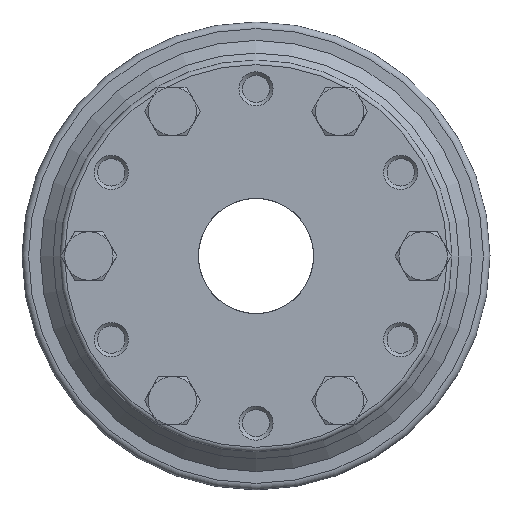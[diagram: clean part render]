
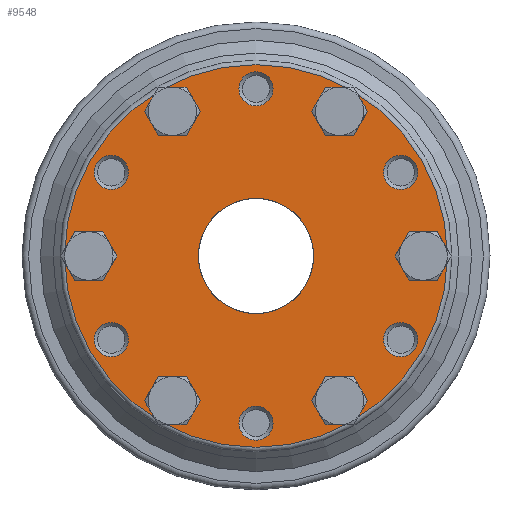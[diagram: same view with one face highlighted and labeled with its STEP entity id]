
A CAD part, left-side view. The second image highlights one B-rep face of the part: STEP entity #9548.
In plain terms, the highlighted planar face has unit normal (-1, 0, 0).
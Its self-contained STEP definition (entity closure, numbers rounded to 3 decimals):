
#951=PLANE('',#10202);
#1678=ORIENTED_EDGE('',*,*,#2991,.T.);
#1679=ORIENTED_EDGE('',*,*,#2990,.T.);
#1680=ORIENTED_EDGE('',*,*,#2989,.T.);
#1681=ORIENTED_EDGE('',*,*,#3005,.F.);
#1682=ORIENTED_EDGE('',*,*,#2988,.T.);
#1683=ORIENTED_EDGE('',*,*,#2987,.F.);
#1684=ORIENTED_EDGE('',*,*,#2985,.F.);
#1685=ORIENTED_EDGE('',*,*,#2983,.F.);
#1686=ORIENTED_EDGE('',*,*,#2981,.F.);
#1687=ORIENTED_EDGE('',*,*,#2979,.F.);
#1688=ORIENTED_EDGE('',*,*,#2977,.F.);
#1689=ORIENTED_EDGE('',*,*,#2975,.T.);
#1690=ORIENTED_EDGE('',*,*,#2974,.T.);
#1691=ORIENTED_EDGE('',*,*,#2973,.T.);
#2973=EDGE_CURVE('',#3701,#3701,#4233,.T.);
#2974=EDGE_CURVE('',#3702,#3702,#4234,.T.);
#2975=EDGE_CURVE('',#3703,#3703,#4235,.T.);
#2977=EDGE_CURVE('',#3705,#3705,#4237,.T.);
#2979=EDGE_CURVE('',#3707,#3707,#4239,.T.);
#2981=EDGE_CURVE('',#3709,#3709,#4241,.T.);
#2983=EDGE_CURVE('',#3711,#3711,#4243,.T.);
#2985=EDGE_CURVE('',#3713,#3713,#4245,.T.);
#2987=EDGE_CURVE('',#3715,#3715,#4247,.T.);
#2988=EDGE_CURVE('',#3716,#3716,#4248,.T.);
#2989=EDGE_CURVE('',#3717,#3717,#4249,.T.);
#2990=EDGE_CURVE('',#3718,#3718,#4250,.T.);
#2991=EDGE_CURVE('',#3719,#3719,#4251,.T.);
#3005=EDGE_CURVE('',#3733,#3733,#4265,.T.);
#3701=VERTEX_POINT('',#13677);
#3702=VERTEX_POINT('',#13680);
#3703=VERTEX_POINT('',#13683);
#3705=VERTEX_POINT('',#13688);
#3707=VERTEX_POINT('',#13693);
#3709=VERTEX_POINT('',#13698);
#3711=VERTEX_POINT('',#13703);
#3713=VERTEX_POINT('',#13708);
#3715=VERTEX_POINT('',#13713);
#3716=VERTEX_POINT('',#13716);
#3717=VERTEX_POINT('',#13719);
#3718=VERTEX_POINT('',#13722);
#3719=VERTEX_POINT('',#13725);
#3733=VERTEX_POINT('',#13767);
#4233=CIRCLE('',#10145,9.585);
#4234=CIRCLE('',#10147,9.585);
#4235=CIRCLE('',#10149,9.585);
#4237=CIRCLE('',#10152,7.418);
#4239=CIRCLE('',#10155,7.418);
#4241=CIRCLE('',#10158,7.418);
#4243=CIRCLE('',#10161,7.418);
#4245=CIRCLE('',#10164,7.418);
#4247=CIRCLE('',#10167,7.418);
#4248=CIRCLE('',#10169,83.);
#4249=CIRCLE('',#10171,9.585);
#4250=CIRCLE('',#10173,9.585);
#4251=CIRCLE('',#10175,9.585);
#4265=CIRCLE('',#10203,25.);
#4804=EDGE_LOOP('',(#1678));
#4805=EDGE_LOOP('',(#1679));
#4806=EDGE_LOOP('',(#1680));
#4807=EDGE_LOOP('',(#1681));
#4808=EDGE_LOOP('',(#1682));
#4809=EDGE_LOOP('',(#1683));
#4810=EDGE_LOOP('',(#1684));
#4811=EDGE_LOOP('',(#1685));
#4812=EDGE_LOOP('',(#1686));
#4813=EDGE_LOOP('',(#1687));
#4814=EDGE_LOOP('',(#1688));
#4815=EDGE_LOOP('',(#1689));
#4816=EDGE_LOOP('',(#1690));
#4817=EDGE_LOOP('',(#1691));
#5572=FACE_BOUND('',#4804,.T.);
#5573=FACE_BOUND('',#4805,.T.);
#5574=FACE_BOUND('',#4806,.T.);
#5575=FACE_BOUND('',#4807,.T.);
#5576=FACE_BOUND('',#4808,.T.);
#5577=FACE_BOUND('',#4809,.T.);
#5578=FACE_BOUND('',#4810,.T.);
#5579=FACE_BOUND('',#4811,.T.);
#5580=FACE_BOUND('',#4812,.T.);
#5581=FACE_BOUND('',#4813,.T.);
#5582=FACE_BOUND('',#4814,.T.);
#5583=FACE_BOUND('',#4815,.T.);
#5584=FACE_BOUND('',#4816,.T.);
#5585=FACE_BOUND('',#4817,.T.);
#9548=ADVANCED_FACE('',(#5572,#5573,#5574,#5575,#5576,#5577,#5578,#5579,
#5580,#5581,#5582,#5583,#5584,#5585),#951,.T.);
#10145=AXIS2_PLACEMENT_3D('',#13676,#11402,#11403);
#10147=AXIS2_PLACEMENT_3D('',#13679,#11406,#11407);
#10149=AXIS2_PLACEMENT_3D('',#13682,#11410,#11411);
#10152=AXIS2_PLACEMENT_3D('',#13687,#11416,#11417);
#10155=AXIS2_PLACEMENT_3D('',#13692,#11422,#11423);
#10158=AXIS2_PLACEMENT_3D('',#13697,#11428,#11429);
#10161=AXIS2_PLACEMENT_3D('',#13702,#11434,#11435);
#10164=AXIS2_PLACEMENT_3D('',#13707,#11440,#11441);
#10167=AXIS2_PLACEMENT_3D('',#13712,#11446,#11447);
#10169=AXIS2_PLACEMENT_3D('',#13715,#11450,#11451);
#10171=AXIS2_PLACEMENT_3D('',#13718,#11454,#11455);
#10173=AXIS2_PLACEMENT_3D('',#13721,#11458,#11459);
#10175=AXIS2_PLACEMENT_3D('',#13724,#11462,#11463);
#10202=AXIS2_PLACEMENT_3D('',#13765,#11516,#11517);
#10203=AXIS2_PLACEMENT_3D('',#13766,#11518,#11519);
#11402=DIRECTION('',(1.,0.,0.));
#11403=DIRECTION('',(0.,0.5,-0.866));
#11406=DIRECTION('',(1.,0.,0.));
#11407=DIRECTION('',(0.,0.5,0.866));
#11410=DIRECTION('',(1.,0.,0.));
#11411=DIRECTION('',(0.,-1.,0.));
#11416=DIRECTION('',(-1.,0.,0.));
#11417=DIRECTION('',(0.,0.5,-0.866));
#11422=DIRECTION('',(-1.,0.,0.));
#11423=DIRECTION('',(0.,0.5,-0.866));
#11428=DIRECTION('',(-1.,0.,0.));
#11429=DIRECTION('',(0.,0.5,-0.866));
#11434=DIRECTION('',(-1.,0.,0.));
#11435=DIRECTION('',(0.,0.5,-0.866));
#11440=DIRECTION('',(-1.,0.,0.));
#11441=DIRECTION('',(0.,0.5,-0.866));
#11446=DIRECTION('',(-1.,0.,0.));
#11447=DIRECTION('',(0.,0.5,-0.866));
#11450=DIRECTION('',(-1.,0.,0.));
#11451=DIRECTION('',(0.,0.5,-0.866));
#11454=DIRECTION('',(1.,0.,0.));
#11455=DIRECTION('',(0.,-0.5,-0.866));
#11458=DIRECTION('',(1.,0.,0.));
#11459=DIRECTION('',(0.,-0.5,0.866));
#11462=DIRECTION('',(1.,0.,0.));
#11463=DIRECTION('',(0.,1.,0.));
#11516=DIRECTION('',(-1.,0.,0.));
#11517=DIRECTION('',(0.,0.5,-0.866));
#11518=DIRECTION('',(-1.,0.,0.));
#11519=DIRECTION('',(0.,0.5,-0.866));
#13676=CARTESIAN_POINT('',(-80.79,36.25,62.787));
#13677=CARTESIAN_POINT('',(-80.79,41.043,54.486));
#13679=CARTESIAN_POINT('',(-80.79,-72.5,0.));
#13680=CARTESIAN_POINT('',(-80.79,-67.708,8.301));
#13682=CARTESIAN_POINT('',(-80.79,36.25,-62.787));
#13683=CARTESIAN_POINT('',(-80.79,26.665,-62.787));
#13687=CARTESIAN_POINT('',(-80.79,62.787,36.25));
#13688=CARTESIAN_POINT('',(-80.79,66.496,29.826));
#13692=CARTESIAN_POINT('',(-80.79,0.,72.5));
#13693=CARTESIAN_POINT('',(-80.79,3.709,66.076));
#13697=CARTESIAN_POINT('',(-80.79,-62.787,36.25));
#13698=CARTESIAN_POINT('',(-80.79,-59.078,29.826));
#13702=CARTESIAN_POINT('',(-80.79,-62.787,-36.25));
#13703=CARTESIAN_POINT('',(-80.79,-59.078,-42.674));
#13707=CARTESIAN_POINT('',(-80.79,0.,-72.5));
#13708=CARTESIAN_POINT('',(-80.79,3.709,-78.924));
#13712=CARTESIAN_POINT('',(-80.79,62.787,-36.25));
#13713=CARTESIAN_POINT('',(-80.79,66.496,-42.674));
#13715=CARTESIAN_POINT('',(-80.79,0.,0.));
#13716=CARTESIAN_POINT('',(-80.79,41.5,-71.88));
#13718=CARTESIAN_POINT('',(-80.79,72.5,0.));
#13719=CARTESIAN_POINT('',(-80.79,67.708,-8.301));
#13721=CARTESIAN_POINT('',(-80.79,-36.25,-62.787));
#13722=CARTESIAN_POINT('',(-80.79,-41.043,-54.486));
#13724=CARTESIAN_POINT('',(-80.79,-36.25,62.787));
#13725=CARTESIAN_POINT('',(-80.79,-26.665,62.787));
#13765=CARTESIAN_POINT('',(-80.79,12.5,-21.651));
#13766=CARTESIAN_POINT('',(-80.79,0.,0.));
#13767=CARTESIAN_POINT('',(-80.79,12.5,-21.651));
